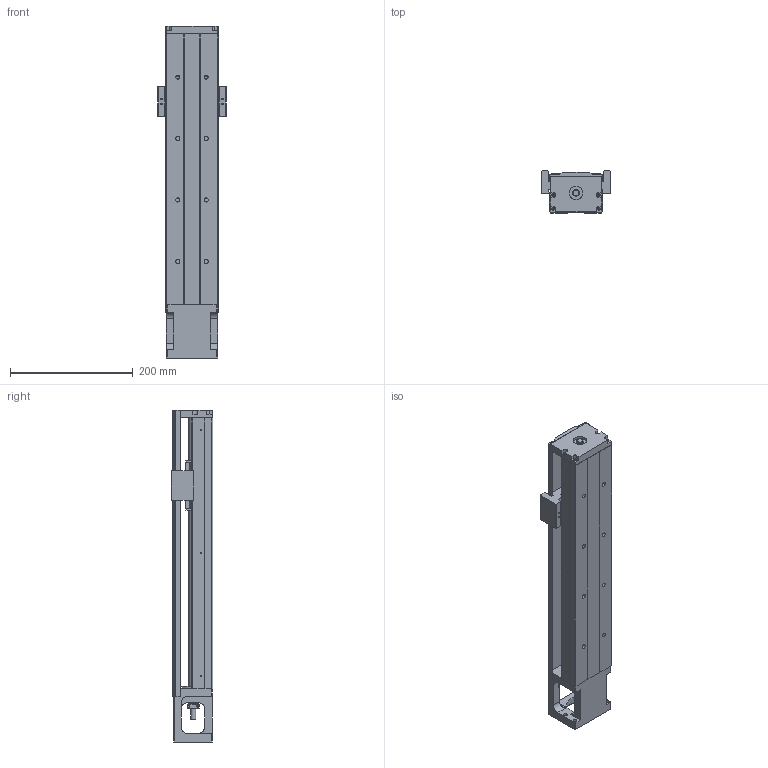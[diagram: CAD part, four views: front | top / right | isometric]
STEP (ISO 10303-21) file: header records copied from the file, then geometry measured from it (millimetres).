
FILE_DESCRIPTION(/* description */ (''),/* implementation_level */ '2;1');
FILE_NAME(/* name */ 'KP46S-440-C.stp',/* time_stamp */ '2020-06-05T10:14:41+08:00',/* author */ (''),/* organization */ (''),/* preprocessor_version */ 'ST-DEVELOPER v14',/* originating_system */ 'SIEMENS PLM Software NX 8.0',/* authorisation */ '');
FILE_SCHEMA (('AUTOMOTIVE_DESIGN { 1 0 10303 214 3 1 1 1 }'));
Length unit declared in the file: millimetre
Products named in the file (1): model1
Bounding box: 112 x 68 x 540 mm (x, y, z)
Volume: 1444464.3 mm3; surface area: 370811.7 mm2
Topology: 7 solids, 18 shells, 682 faces, 1790 edges, 1187 vertices
Faces by surface type: plane 334, cylinder 245, cone 54, bspline 41, torus 8
Full cylindrical faces by diameter (mm): 2 x2, 2.11 x2, 2.15 x6, 2.42 x6, 2.5 x4, 3 x4, 3.2 x4, 3.3 x12, 3.4 x8, 4 x6, 4.2 x4, 4.5 x8, 5 x8, 6 x8, 6.35 x2, 6.6 x7, 6.7 x2, 8 x1, 8.7 x4, 9.6 x1, 10 x3, 11 x8, 12 x1, 14.95 x2, 15 x1, 16 x2, 22 x3, 27.5 x1, 44 x1, 50 x1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
Entity records: 31377 total; most frequent: CARTESIAN_POINT 12998, ORIENTED_EDGE 3100, DIRECTION 3036, EDGE_CURVE 1550, AXIS2_PLACEMENT_3D 1118, VERTEX_POINT 1117, EDGE_LOOP 957, LINE 800
